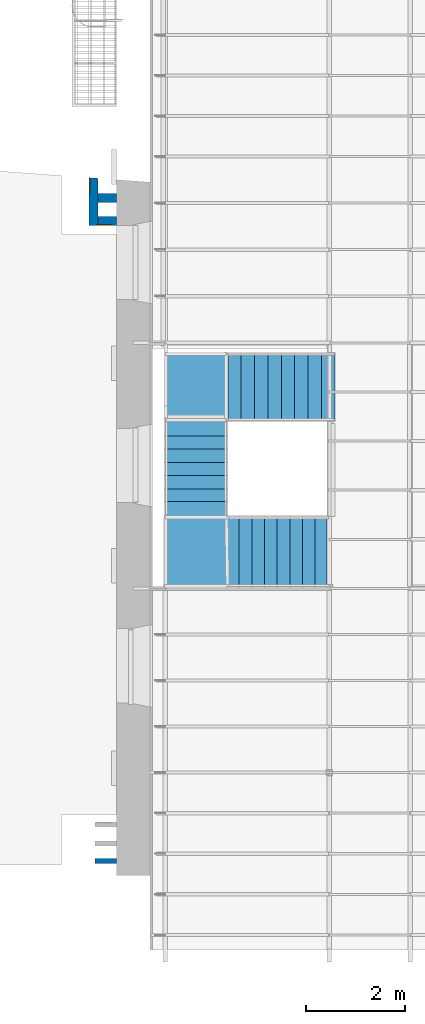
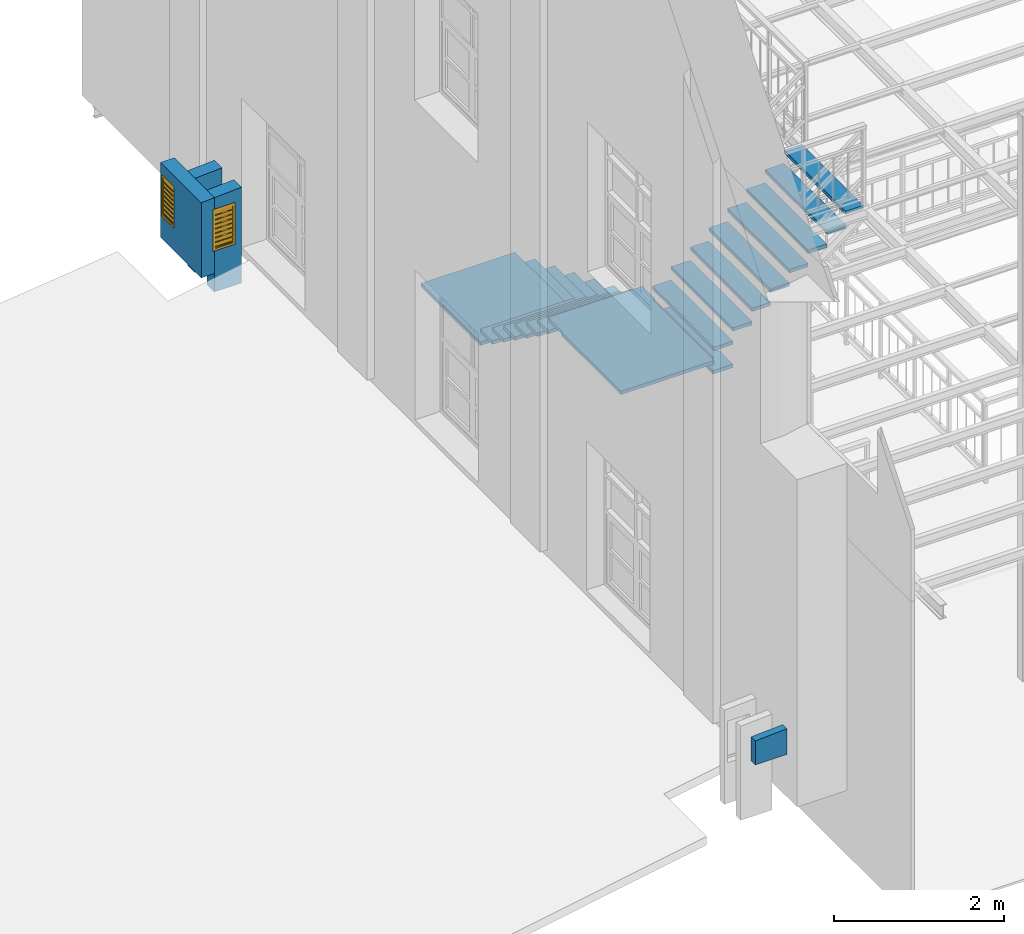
# One storey, part 23 of 33: 4 walls, 2 windows, 1 stair flight, 3 openings, 1 element without a shape of its own.
"""IFC2X3 building model written with IfcOpenShell, lengths in metres."""

from ifc_helpers import new_model, entity, si_unit, converted_unit, derived_unit, direction, frame, frame_2d, origin, origin_2d_with_axis, place, context, subcontext, project, spatial, polyline, rectangle, outline, extrude, clip, bounded_halfspace, source, transform, mapped, material, material_list, layer, layer_set, layer_usage, type_object, type_shapes, element, fill, aggregate, save


model = new_model("IFC2X3")

# Units and contexts
model_context = context("Model", 3, precision=1e-05, world=origin(), true_north=direction((6.12303176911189e-17, 1.0)))
body_context = subcontext(model_context, "Body", "Model", "MODEL_VIEW")
ifc_project = project(units=[si_unit("LENGTHUNIT", "METRE"), si_unit("AREAUNIT", "SQUARE_METRE"), si_unit("VOLUMEUNIT", "CUBIC_METRE"), converted_unit("PLANEANGLEUNIT", "DEGREE", entity("IfcRatioMeasure", 0.0174532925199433), si_unit("PLANEANGLEUNIT", "RADIAN"), dimensions=[0, 0, 0, 0, 0, 0, 0]), si_unit("MASSUNIT", "GRAM", prefix="KILO"), derived_unit("MASSDENSITYUNIT", [(si_unit("MASSUNIT", "GRAM", prefix="KILO"), 1), (si_unit("LENGTHUNIT", "METRE"), -3)]), derived_unit("MOMENTOFINERTIAUNIT", [(si_unit("LENGTHUNIT", "METRE"), 4)]), si_unit("TIMEUNIT", "SECOND"), si_unit("FREQUENCYUNIT", "HERTZ"), si_unit("THERMODYNAMICTEMPERATUREUNIT", "DEGREE_CELSIUS"), derived_unit("THERMALTRANSMITTANCEUNIT", [(si_unit("MASSUNIT", "GRAM", prefix="KILO"), 1), (si_unit("THERMODYNAMICTEMPERATUREUNIT", "KELVIN"), -1), (si_unit("TIMEUNIT", "SECOND"), -3)]), derived_unit("VOLUMETRICFLOWRATEUNIT", [(si_unit("LENGTHUNIT", "METRE"), 3), (si_unit("TIMEUNIT", "SECOND"), -1)]), si_unit("ELECTRICCURRENTUNIT", "AMPERE"), si_unit("ELECTRICVOLTAGEUNIT", "VOLT"), si_unit("POWERUNIT", "WATT"), si_unit("FORCEUNIT", "NEWTON", prefix="KILO"), si_unit("ILLUMINANCEUNIT", "LUX"), si_unit("LUMINOUSFLUXUNIT", "LUMEN"), si_unit("LUMINOUSINTENSITYUNIT", "CANDELA"), derived_unit("USERDEFINED", [(si_unit("MASSUNIT", "GRAM", prefix="KILO"), -1), (si_unit("LENGTHUNIT", "METRE"), -2), (si_unit("TIMEUNIT", "SECOND"), 3), (si_unit("LUMINOUSFLUXUNIT", "LUMEN"), 1)]), derived_unit("LINEARVELOCITYUNIT", [(si_unit("LENGTHUNIT", "METRE"), 1), (si_unit("TIMEUNIT", "SECOND"), -1)]), si_unit("PRESSUREUNIT", "PASCAL"), derived_unit("USERDEFINED", [(si_unit("LENGTHUNIT", "METRE"), -2), (si_unit("MASSUNIT", "GRAM", prefix="KILO"), 1), (si_unit("TIMEUNIT", "SECOND"), -2)]), derived_unit("LINEARFORCEUNIT", [(si_unit("MASSUNIT", "GRAM", prefix="KILO"), 1), (si_unit("LENGTHUNIT", "METRE"), 1), (si_unit("TIMEUNIT", "SECOND"), -2), (si_unit("LENGTHUNIT", "METRE"), -1)]), derived_unit("PLANARFORCEUNIT", [(si_unit("MASSUNIT", "GRAM", prefix="KILO"), 1), (si_unit("LENGTHUNIT", "METRE"), 1), (si_unit("TIMEUNIT", "SECOND"), -2), (si_unit("LENGTHUNIT", "METRE"), -2)])], contexts=[model_context])

# Site, building, storey
site_placement = place(None, origin())
site = spatial("IfcSite", under=ifc_project, at=site_placement, Name="Superficie", CompositionType="ELEMENT")
building_placement = place(site_placement, origin())
building = spatial("IfcBuilding", under=site, at=building_placement, Name="Telegestiones", CompositionType="ELEMENT")
storey_placement = place(building_placement, frame((0.0, 0.0, 4.94)))
storey = spatial("IfcBuildingStorey", under=building, at=storey_placement, Name="Nivel 1_NPT", CompositionType="ELEMENT", Elevation=4.94)

# Wall
ifc_material_1 = material(Name="Muro por defecto")
ifc_layer_1 = layer(ifc_material_1, 0.18)
ifc_layer_set_1 = layer_set([ifc_layer_1], Name="Muro básico:ARQ-MU-IN-18-Gen")
ifc_layer_usage_1 = layer_usage(ifc_layer_set_1, "AXIS2", "NEGATIVE", 0.09)
wall_type_1 = type_object("IfcWallType", Name="Muro básico:ARQ-MU-IN-18-Gen", PredefinedType="STANDARD", material=ifc_layer_set_1)
wall_1_placement = place(storey_placement, frame((4.9842897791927, 9.35321210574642, 0.5)))
element("IfcWallStandardCase", 1, at=wall_1_placement, inside=storey, type_object=wall_type_1, material=ifc_layer_usage_1, Name="Muro básico:ARQ-MU-IN-18-Gen", ObjectType="Muro básico:ARQ-MU-IN-18-Gen", context=body_context, shape_type="Clipping", body=[
    clip(extrude(rectangle(XDim=0.370000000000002, YDim=0.18, at=frame_2d((0.185000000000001, 9.71445146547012e-17), x_axis=(-1.0, 0.0))), origin(), (0.0, 0.0, 1.0), 1.3799), bounded_halfspace(frame((0.0, -0.0900000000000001, 1.3577), z_axis=(-0.0598922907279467, 0.0, 0.998204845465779), x_axis=(0.0, 1.0, 0.0)), False, frame((0.0, -0.0900000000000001, 1.3577)), polyline([(0.0, 0.0), (0.37, 0.0), (0.37, 0.18), (0.0, 0.18), (0.0, 0.0)]))),
])

# Wall, openings, window
ifc_layer_usage_2 = layer_usage(ifc_layer_set_1, "AXIS2", "NEGATIVE", 0.09)
wall_2_placement = place(storey_placement, frame((4.8942897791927, 8.80360722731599, 0.764683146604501), z_axis=(0.0, 0.0, 1.0), x_axis=(0.0, 1.0, 0.0)))
wall_2 = element("IfcWallStandardCase", 2, at=wall_2_placement, inside=storey, type_object=wall_type_1, material=ifc_layer_usage_2, Name="Muro básico:ARQ-MU-IN-18-Gen", ObjectType="Muro básico:ARQ-MU-IN-18-Gen", context=body_context, shape_type="Clipping", body=[
    clip(extrude(outline(polyline([(0.946690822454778, -0.0899999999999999), (0.959867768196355, 0.0900000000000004), (0.0, 0.0900000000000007), (0.0, -0.0900000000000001), (0.946690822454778, -0.0899999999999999)])), origin(), (0.0, 0.0, 1.0), 1.0930168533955), bounded_halfspace(frame((0.0, -0.0900000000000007, 1.0930168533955), z_axis=(0.0, 0.0598922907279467, 0.998204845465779), x_axis=(1.0, 0.0, 0.0)), False, frame((0.0, -0.0900000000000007, 1.0930168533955)), polyline([(0.0, 0.0), (0.180000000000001, 0.0), (0.459604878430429, 0.0), (0.639604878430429, 0.0), (0.946690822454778, 0.0), (0.959867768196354, 0.179999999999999), (0.0, 0.18), (0.0, 0.0)]))),
])
opening_1_placement = place(wall_2_placement, origin())
element("IfcOpeningElement", 3, at=opening_1_placement, cuts=wall_2, Name="Muro básico:ARQ-MU-IN-18-Gen", ObjectType="Opening", context=body_context, shape_type="SweptSolid", body=[
    extrude(rectangle(XDim=0.6, YDim=0.18, at=frame_2d((1.08246744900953e-15, 0.0), x_axis=(0.0, 1.0))), frame((0.0900000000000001, -0.370000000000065, 0.625966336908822), z_axis=(0.0, 1.0, 0.0), x_axis=(1.0, 0.0, 0.0)), (0.0, 0.0, 1.0), 0.299999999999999),
])
opening_2_placement = place(wall_2_placement, frame((0.640000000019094, -0.0900000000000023, 0.325966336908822)))
opening_2 = element("IfcOpeningElement", 4, at=opening_2_placement, cuts=wall_2, Name="ARQ-Rejilla ventilación:ARQ-Rejilla ventilación:1", ObjectType="Opening", context=body_context, shape_type="SweptSolid", body=[
    extrude(rectangle(XDim=0.6, YDim=0.3, at=frame_2d((0.299999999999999, 0.15), x_axis=(1.0, 0.0))), frame((0.0, 0.0, 0.0), z_axis=(0.0, 1.0, 0.0), x_axis=(0.0, 0.0, 1.0)), (0.0, 0.0, 1.0), 0.18),
])
ifc_material_2 = material(Name="Aluminio (1)")
ifc_material_list_1 = material_list([ifc_material_2, ifc_material_2, ifc_material_2, ifc_material_2, ifc_material_2, ifc_material_2, ifc_material_2, ifc_material_2, ifc_material_2, ifc_material_2])
ifc_material_list_2 = material_list([ifc_material_2, ifc_material_2, ifc_material_2, ifc_material_2, ifc_material_2, ifc_material_2, ifc_material_2, ifc_material_2, ifc_material_2, ifc_material_2])
window_style = type_object("IfcWindowStyle", Name="ARQ-Rejilla ventilación:ARQ-Rejilla ventilación", ConstructionType="NOTDEFINED", OperationType="NOTDEFINED", ParameterTakesPrecedence=False, Sizeable=False, material=ifc_material_list_2)
shared_shape = source(origin(), body_context, "Body", "SweptSolid", [
    extrude(outline(polyline([(-0.01, -0.0325000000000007), (-0.00453733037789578, -0.0325000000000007), (0.01, 0.032500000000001), (0.00453733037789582, 0.032500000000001), (-0.01, -0.0325000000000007)])), frame((0.0300000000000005, 0.170000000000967, 0.537499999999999), z_axis=(1.0, 0.0, 0.0), x_axis=(0.0, -1.0, 0.0)), (0.0, 0.0, 1.0), 0.24),
    extrude(outline(polyline([(-0.0100000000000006, -0.032500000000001), (-0.00453733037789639, -0.032500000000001), (0.0100000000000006, 0.0325000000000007), (0.00453733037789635, 0.0325000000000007), (-0.0100000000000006, -0.032500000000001)])), frame((0.0300000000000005, 0.170000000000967, 0.212499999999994), z_axis=(1.0, 0.0, 0.0), x_axis=(0.0, -1.0, 0.0)), (0.0, 0.0, 1.0), 0.24),
    extrude(outline(polyline([(-0.010000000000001, -0.0325000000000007), (-0.00453733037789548, -0.0325000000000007), (0.0100000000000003, 0.032500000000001), (0.00453733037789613, 0.032500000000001), (-0.010000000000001, -0.0325000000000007)])), frame((0.0300000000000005, 0.170000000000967, 0.147499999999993), z_axis=(1.0, 0.0, 0.0), x_axis=(0.0, -1.0, 0.0)), (0.0, 0.0, 1.0), 0.24),
    extrude(outline(polyline([(-0.0100000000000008, -0.0325000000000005), (-0.00453733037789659, -0.0325000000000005), (0.0100000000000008, 0.0325000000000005), (0.00453733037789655, 0.0325000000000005), (-0.0100000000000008, -0.0325000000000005)])), frame((0.0300000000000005, 0.170000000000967, 0.0824999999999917), z_axis=(1.0, 0.0, 0.0), x_axis=(0.0, -1.0, 0.0)), (0.0, 0.0, 1.0), 0.24),
    extrude(outline(polyline([(-0.00496784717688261, -0.0099999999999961), (0.000494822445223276, -0.0099999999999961), (0.00496784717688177, 0.00999999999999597), (-0.00049482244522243, 0.00999999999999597), (-0.00496784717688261, -0.0099999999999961)])), frame((0.0300000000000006, 0.175032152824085, 0.0399999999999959), z_axis=(1.0, 0.0, 0.0), x_axis=(0.0, -1.0, 0.0)), (0.0, 0.0, 1.0), 0.24),
    extrude(outline(polyline([(-0.0100000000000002, -0.032500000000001), (-0.00453733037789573, -0.032500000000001), (0.0100000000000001, 0.0325000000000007), (0.00453733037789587, 0.0325000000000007), (-0.0100000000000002, -0.032500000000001)])), frame((0.0300000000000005, 0.170000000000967, 0.472499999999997), z_axis=(1.0, 0.0, 0.0), x_axis=(0.0, -1.0, 0.0)), (0.0, 0.0, 1.0), 0.24),
    extrude(outline(polyline([(-0.0100000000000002, -0.0325000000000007), (-0.00453733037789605, -0.0325000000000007), (0.0100000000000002, 0.032500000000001), (0.00453733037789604, 0.032500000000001), (-0.0100000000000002, -0.0325000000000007)])), frame((0.0300000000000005, 0.170000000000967, 0.407499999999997), z_axis=(1.0, 0.0, 0.0), x_axis=(0.0, -1.0, 0.0)), (0.0, 0.0, 1.0), 0.24),
    extrude(outline(polyline([(-0.0100000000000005, -0.032500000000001), (-0.00453733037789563, -0.032500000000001), (0.0100000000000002, 0.0325000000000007), (0.00453733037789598, 0.0325000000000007), (-0.0100000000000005, -0.032500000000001)])), frame((0.0300000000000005, 0.170000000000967, 0.342499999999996), z_axis=(1.0, 0.0, 0.0), x_axis=(0.0, -1.0, 0.0)), (0.0, 0.0, 1.0), 0.24),
    extrude(outline(polyline([(-0.0100000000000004, -0.0325000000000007), (-0.00453733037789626, -0.0325000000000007), (0.0100000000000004, 0.032500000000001), (0.00453733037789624, 0.032500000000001), (-0.0100000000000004, -0.0325000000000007)])), frame((0.0300000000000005, 0.170000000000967, 0.277499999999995), z_axis=(1.0, 0.0, 0.0), x_axis=(0.0, -1.0, 0.0)), (0.0, 0.0, 1.0), 0.24),
    extrude(outline(polyline([(-0.15, -0.3), (0.15, -0.3), (0.15, 0.3), (-0.15, 0.3), (-0.15, -0.3)]), holes=[polyline([(-0.12, -0.27), (-0.12, 0.27), (0.12, 0.27), (0.12, -0.27), (-0.12, -0.27)])]), frame((0.15, 0.160000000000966, 0.3), z_axis=(0.0, 1.0, 0.0), x_axis=(1.0, 0.0, 0.0)), (0.0, 0.0, 1.0), 0.02),
])
type_shapes(window_style, [shared_shape])
window_1_placement = place(opening_2_placement, origin())
window_1 = element("IfcWindow", 5, at=window_1_placement, inside=storey, type_object=window_style, material=ifc_material_list_1, Name="ARQ-Rejilla ventilación:ARQ-Rejilla ventilación", ObjectType="ARQ-Rejilla ventilación:ARQ-Rejilla ventilación", OverallHeight=0.6, OverallWidth=0.3, context=body_context, shape_type="MappedRepresentation", body=[
    mapped(shared_shape, transform((0.0, 0.0, 0.0), scale=1.0)),
])
fill(opening_2, window_1)

# Wall, opening, window
ifc_layer_usage_3 = layer_usage(ifc_layer_set_1, "AXIS2", "NEGATIVE", 0.09)
wall_3_placement = place(storey_placement, frame((4.9842897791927, 8.89360722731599, 0.5)))
wall_3 = element("IfcWallStandardCase", 6, at=wall_3_placement, inside=storey, type_object=wall_type_1, material=ifc_layer_usage_3, Name="Muro básico:ARQ-MU-IN-18-Gen", ObjectType="Muro básico:ARQ-MU-IN-18-Gen", context=body_context, shape_type="Clipping", body=[
    clip(extrude(rectangle(XDim=0.370000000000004, YDim=0.18, at=frame_2d((0.185000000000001, 9.71445146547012e-17), x_axis=(-1.0, 0.0))), origin(), (0.0, 0.0, 1.0), 1.3799), bounded_halfspace(frame((0.0, -0.0900000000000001, 1.3577), z_axis=(-0.0598922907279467, 0.0, 0.998204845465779), x_axis=(0.0, 1.0, 0.0)), False, frame((0.0, -0.0900000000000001, 1.3577)), polyline([(0.0, 0.0), (0.37, 0.0), (0.37, 0.18), (0.0, 0.18), (0.0, 0.0)]))),
])
opening_3_placement = place(wall_3_placement, frame((0.280000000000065, 0.0900000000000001, 0.590649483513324)))
opening_3 = element("IfcOpeningElement", 7, at=opening_3_placement, cuts=wall_3, Name="ARQ-Rejilla ventilación:ARQ-Rejilla ventilación:1", ObjectType="Opening", context=body_context, shape_type="SweptSolid", body=[
    extrude(rectangle(XDim=0.6, YDim=0.3, at=frame_2d((0.299999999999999, 0.15), x_axis=(1.0, 0.0))), frame((0.0, 0.0, 0.0), z_axis=(0.0, -1.0, 0.0), x_axis=(0.0, 0.0, 1.0)), (0.0, 0.0, 1.0), 0.18),
])
window_2_placement = place(opening_3_placement, frame((0.0, 0.0, 0.0), z_axis=(0.0, 0.0, 1.0), x_axis=(-1.0, 0.0, 0.0)))
window_2 = element("IfcWindow", 8, at=window_2_placement, inside=storey, type_object=window_style, material=ifc_material_2, Name="ARQ-Rejilla ventilación:ARQ-Rejilla ventilación", ObjectType="ARQ-Rejilla ventilación:ARQ-Rejilla ventilación", OverallHeight=0.6, OverallWidth=0.3, context=body_context, shape_type="MappedRepresentation", body=[
    mapped(shared_shape, transform((0.0, 0.0, 0.0), scale=1.0)),
])
fill(opening_3, window_2)

# Wall
ifc_material_3 = material(Name="Placa yeso entera")
ifc_layer_2 = layer(ifc_material_3, 0.015)
ifc_material_4 = material(Name="Estructura de Hierro Galvanizado")
ifc_layer_3 = layer(ifc_material_4, 0.07)
ifc_layer_4 = layer(ifc_material_3, 0.015)
ifc_layer_set_2 = layer_set([ifc_layer_2, ifc_layer_3, ifc_layer_4], Name="Muro básico:ARQ-MU-IN-10-Ye-T8")
ifc_layer_usage_4 = layer_usage(ifc_layer_set_2, "AXIS2", "NEGATIVE", 0.05)
wall_type_2 = type_object("IfcWallType", Name="Muro básico:ARQ-MU-IN-10-Ye-T8", PredefinedType="STANDARD", material=ifc_layer_set_2)
wall_4_placement = place(storey_placement, frame((4.92428977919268, -4.006392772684, 1.51)))
element("IfcWallStandardCase", 9, at=wall_4_placement, inside=storey, type_object=wall_type_2, material=ifc_layer_usage_4, Name="Muro básico:ARQ-MU-IN-10-Ye-T8", ObjectType="Muro básico:ARQ-MU-IN-10-Ye-T8", context=body_context, shape_type="Clipping", body=[
    clip(extrude(rectangle(XDim=0.429999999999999, YDim=0.1, at=frame_2d((0.214999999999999, -5.89805981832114e-17), x_axis=(-1.0, 0.0))), origin(), (0.0, 0.0, 1.0), 0.369856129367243), bounded_halfspace(frame((0.0, -0.05, 0.344056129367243), z_axis=(-0.0598922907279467, 0.0, 0.998204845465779), x_axis=(0.0, 1.0, 0.0)), False, frame((0.0, -0.05, 0.344056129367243)), polyline([(0.0, 0.0), (0.429999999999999, 0.0), (0.429999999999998, 0.0999999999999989), (0.0, 0.1), (0.0, 0.0)]))),
])

# Stair, stair flight
stair_placement = place(storey_placement, origin())
stair = element("IfcStair", 10, at=stair_placement, inside=storey, Name="Escalera ensamblada:Escalera", ObjectType="Escalera ensamblada:ARQ-ESC-IN-sin vigas", ShapeType="NOTDEFINED")
ifc_material_5 = material(Name="Caoba")
stair_flight_type = type_object("IfcStairFlightType", Name="Tramo no monolítico:Sin contrahuellas", PredefinedType="NOTDEFINED")
stair_flight_placement = place(stair_placement, origin())
stair_flight = element("IfcStairFlight", 11, at=stair_flight_placement, type_object=stair_flight_type, material=ifc_material_5, Name="Escalera ensamblada:Escalera:1572165 Run 1", ObjectType="Tramo no monolítico:Sin contrahuellas", NumberOfRiser=25, NumberOfTreads=24, RiserHeight=0.623359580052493, TreadLength=0.853018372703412, context=body_context, shape_type="SweptSolid", body=[
    extrude(rectangle(XDim=0.270000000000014, YDim=1.4000178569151, at=frame_2d((-1.09634523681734e-15, 0.0), x_axis=(1.0, 0.0))), frame((9.62381262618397, 5.54461615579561, 0.14)), (0.0, 0.0, 1.0), 0.0499999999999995),
    extrude(rectangle(XDim=0.269999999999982, YDim=1.4000178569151, at=origin_2d_with_axis()), frame((9.35381262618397, 5.54461615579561, 0.33)), (0.0, 0.0, 1.0), 0.0499999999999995),
    extrude(rectangle(XDim=0.269999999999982, YDim=1.4000178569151, at=origin_2d_with_axis()), frame((9.08381262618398, 5.54461615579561, 0.52)), (0.0, 0.0, 1.0), 0.0499999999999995),
    extrude(rectangle(XDim=0.269999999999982, YDim=1.4000178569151, at=origin_2d_with_axis()), frame((8.81381262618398, 5.54461615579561, 0.71)), (0.0, 0.0, 1.0), 0.0499999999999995),
    extrude(rectangle(XDim=0.269999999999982, YDim=1.4000178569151, at=origin_2d_with_axis()), frame((8.54381262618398, 5.54461615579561, 0.9)), (0.0, 0.0, 1.0), 0.0499999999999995),
    extrude(rectangle(XDim=0.269999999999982, YDim=1.4000178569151, at=origin_2d_with_axis()), frame((8.27381262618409, 5.54461615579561, 1.09)), (0.0, 0.0, 1.0), 0.0499999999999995),
    extrude(rectangle(XDim=0.269999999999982, YDim=1.4000178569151, at=origin_2d_with_axis()), frame((8.00381262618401, 5.54461615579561, 1.28)), (0.0, 0.0, 1.0), 0.0499999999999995),
    extrude(rectangle(XDim=0.269214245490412, YDim=1.4000178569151, at=origin_2d_with_axis()), frame((7.73420550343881, 5.54461615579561, 1.47)), (0.0, 0.0, 1.0), 0.0499999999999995),
    extrude(rectangle(XDim=1.4000178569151, YDim=1.2807857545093, at=frame_2d((0.0, 1.0547118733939e-15), x_axis=(1.0, 0.0))), frame((6.95920550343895, 5.54461615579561, 1.66), z_axis=(0.0, 0.0, 1.0), x_axis=(0.0, 1.0, 0.0)), (0.0, 0.0, 1.0), 0.0499999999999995),
    extrude(rectangle(XDim=0.255593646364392, YDim=1.45540747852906, at=frame_2d((-0.019508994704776, 0.145540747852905), x_axis=(1.0, 0.0))), frame((7.67763435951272, 2.36958709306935, 3.18), z_axis=(0.0, 0.0, 1.0), x_axis=(-1.0, 0.0, 0.0)), (0.0, 0.0, 1.0), 0.0499999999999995),
    extrude(rectangle(XDim=0.263428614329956, YDim=1.45540747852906, at=frame_2d((-5.41233724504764e-16, -1.88737914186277e-15), x_axis=(1.0, 0.0))), frame((7.95665448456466, 2.22404634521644, 3.37), z_axis=(0.0, 0.0, 1.0), x_axis=(-1.0, 0.0, 0.0)), (0.0, 0.0, 1.0), 0.0499999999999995),
    extrude(outline(polyline([(0.303851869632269, -0.652205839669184), (0.593851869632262, -0.652205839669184), (0.593851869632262, 0.628579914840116), (0.253851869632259, 0.628579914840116), (0.253851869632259, 0.645579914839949), (-1.15155560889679, 0.645579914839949), (-1.15155560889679, -0.621953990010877), (0.303851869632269, -0.621953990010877), (0.303851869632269, -0.652205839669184)])), frame((6.94739254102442, 2.6478982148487, 2.99), z_axis=(0.0, 0.0, 1.0), x_axis=(0.0, 1.0, 0.0)), (0.0, 0.0, 1.0), 0.0499999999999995),
    extrude(rectangle(XDim=0.24099999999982, YDim=1.45540747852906, at=frame_2d((0.0, -2.77555756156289e-16), x_axis=(1.0, 0.0))), frame((9.48231262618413, 2.22404634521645, 4.51), z_axis=(0.0, 0.0, 1.0), x_axis=(-1.0, 0.0, 0.0)), (0.0, 0.0, 1.0), 0.0499999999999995),
    extrude(rectangle(XDim=0.28428571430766, YDim=1.2807857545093, at=frame_2d((0.0, 1.0547118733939e-15), x_axis=(1.0, 0.0))), frame((6.95920550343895, 4.70246437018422, 1.85), z_axis=(0.0, 0.0, 1.0), x_axis=(0.0, 1.0, 0.0)), (0.0, 0.0, 1.0), 0.0499999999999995),
    extrude(rectangle(XDim=0.267142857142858, YDim=1.2807857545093, at=frame_2d((0.0, 1.0547118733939e-15), x_axis=(1.0, 0.0))), frame((6.95920550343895, 4.42675008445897, 2.04), z_axis=(0.0, 0.0, 1.0), x_axis=(0.0, 1.0, 0.0)), (0.0, 0.0, 1.0), 0.0499999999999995),
    extrude(rectangle(XDim=0.267142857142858, YDim=1.2807857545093, at=frame_2d((0.0, 1.0547118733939e-15), x_axis=(1.0, 0.0))), frame((6.95920550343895, 4.15960722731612, 2.23), z_axis=(0.0, 0.0, 1.0), x_axis=(0.0, 1.0, 0.0)), (0.0, 0.0, 1.0), 0.0499999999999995),
    extrude(rectangle(XDim=0.267142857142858, YDim=1.2807857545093, at=frame_2d((0.0, 1.0547118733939e-15), x_axis=(1.0, 0.0))), frame((6.95920550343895, 3.89246437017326, 2.42), z_axis=(0.0, 0.0, 1.0), x_axis=(0.0, 1.0, 0.0)), (0.0, 0.0, 1.0), 0.0499999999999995),
    extrude(rectangle(XDim=0.267142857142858, YDim=1.2807857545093, at=frame_2d((0.0, 1.0547118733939e-15), x_axis=(1.0, 0.0))), frame((6.95920550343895, 3.62532151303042, 2.61), z_axis=(0.0, 0.0, 1.0), x_axis=(0.0, 1.0, 0.0)), (0.0, 0.0, 1.0), 0.0499999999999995),
    extrude(rectangle(XDim=0.248862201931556, YDim=1.45540747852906, at=frame_2d((0.0, -1.88737914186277e-15), x_axis=(1.0, 0.0))), frame((8.21279989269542, 2.22404634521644, 3.56), z_axis=(0.0, 0.0, 1.0), x_axis=(-1.0, 0.0, 0.0)), (0.0, 0.0, 1.0), 0.0499999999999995),
    extrude(rectangle(XDim=0.256145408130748, YDim=1.45540747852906, at=frame_2d((-5.41233724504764e-16, -2.16493489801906e-15), x_axis=(1.0, 0.0))), frame((8.46530369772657, 2.22404634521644, 3.75), z_axis=(0.0, 0.0, 1.0), x_axis=(-1.0, 0.0, 0.0)), (0.0, 0.0, 1.0), 0.0499999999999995),
    extrude(rectangle(XDim=0.256145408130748, YDim=1.45540747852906, at=frame_2d((5.41233724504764e-16, -2.16493489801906e-15), x_axis=(1.0, 0.0))), frame((8.72144910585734, 2.22404634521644, 3.94), z_axis=(0.0, 0.0, 1.0), x_axis=(-1.0, 0.0, 0.0)), (0.0, 0.0, 1.0), 0.0499999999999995),
    extrude(rectangle(XDim=0.256145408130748, YDim=1.45540747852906, at=frame_2d((5.41233724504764e-16, -2.16493489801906e-15), x_axis=(1.0, 0.0))), frame((8.97759451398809, 2.22404634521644, 4.13), z_axis=(0.0, 0.0, 1.0), x_axis=(-1.0, 0.0, 0.0)), (0.0, 0.0, 1.0), 0.0499999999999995),
    extrude(rectangle(XDim=0.256145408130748, YDim=1.45540747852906, at=frame_2d((-5.41233724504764e-16, -2.16493489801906e-15), x_axis=(1.0, 0.0))), frame((9.23373992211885, 2.22404634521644, 4.32), z_axis=(0.0, 0.0, 1.0), x_axis=(-1.0, 0.0, 0.0)), (0.0, 0.0, 1.0), 0.0499999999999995),
    extrude(rectangle(XDim=0.249999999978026, YDim=1.2807857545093, at=frame_2d((0.0, -1.11022302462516e-15), x_axis=(1.0, 0.0))), frame((6.95920550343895, 3.36675008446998, 2.8), z_axis=(0.0, 0.0, 1.0), x_axis=(0.0, 1.0, 0.0)), (0.0, 0.0, 1.0), 0.0499999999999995),
])
aggregate(stair, [stair_flight])

save(model, "model.ifc")
